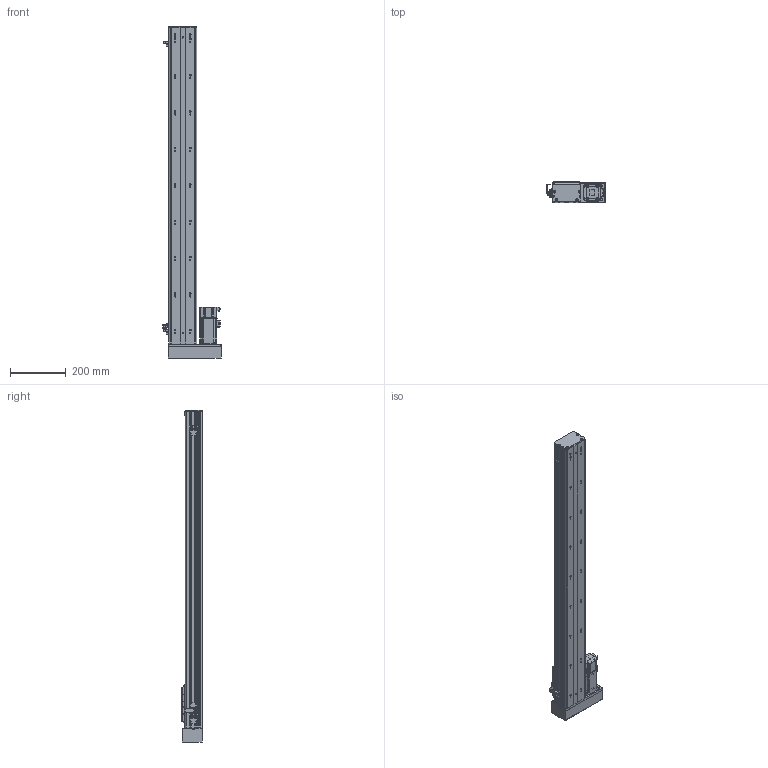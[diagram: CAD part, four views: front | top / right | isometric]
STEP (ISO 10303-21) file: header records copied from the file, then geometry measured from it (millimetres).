
FILE_DESCRIPTION (( 'STEP AP203' ), '1' );
FILE_NAME ('BOSW100-950-1610-1P-LM-M400W-O-S3（方程式2016）.step', '2020-10-10T07:01:02', ( '' ), ( '' ), 'SwSTEP 2.0', 'SolidWorks 2016', '' );
FILE_SCHEMA (( 'CONFIG_CONTROL_DESIGN' ));
Length unit declared in the file: millimetre
Products named in the file (14): BOSW100-950-1610-1P-LM-M400W-O-S3（方程式2016）; BOSW&TW-100-1P-賑雄釱欶; BOSW-100-綴裔啣; AIMS(W)-100-LM&RM-肮祭謫欶; boS-100-LM&RM-三菱M400W马达板-宽轨; BOSW-100-1P-DM-宽轨-侧板-950客户图纸; 新结构AIMSW-100-1P-宽&高轨共用-滑动座上组件; BOSW-100-1P-DM-950諦誧芞; BOSW&TW-100-俋离覜茼え; 放大器内置U型微型光电传感器PM-L65; S400W(SMA-L040); 俋境嫖覜嘐隅啣; BOSW-100-1P-DM-宽轨-钢带-950客户图纸; BOSW&TW-100-詩湍揤沭(陔賦凳)
Assembly tree (19 placements, depth 2):
  BOSW100-950-1610-1P-LM-M400W-O-S3（方程式2016）
    BOSW-100-1P-DM-950諦誧芞
    BOSW-100-綴裔啣
    新结构AIMSW-100-1P-宽&高轨共用-滑动座上组件
    S400W(SMA-L040)
    BOSW&TW-100-詩湍揤沭(陔賦凳)  x2
    BOSW&TW-100-1P-賑雄釱欶
    BOSW&TW-100-俋离覜茼え
    俋境嫖覜嘐隅啣  x3
    放大器内置U型微型光电传感器PM-L65  x3
    BOSW-100-1P-DM-宽轨-侧板-950客户图纸  x2
    BOSW-100-1P-DM-宽轨-钢带-950客户图纸
    AIMS(W)-100-LM&RM-肮祭謫欶
    boS-100-LM&RM-三菱M400W马达板-宽轨
Bounding box: 207.9 x 75 x 1186 mm (x, y, z)
Volume: 2572295.6 mm3; surface area: 1193254.3 mm2
Topology: 19 solids, 20 shells, 2579 faces, 6831 edges, 4363 vertices
Faces by surface type: plane 1249, cylinder 844, bspline 271, cone 167, torus 36, sphere 12
Entity records: 71316 total; most frequent: CARTESIAN_POINT 21218, ORIENTED_EDGE 10202, DIRECTION 9909, EDGE_CURVE 5101, AXIS2_PLACEMENT_3D 3535, VERTEX_POINT 3265, LINE 2839, VECTOR 2839
